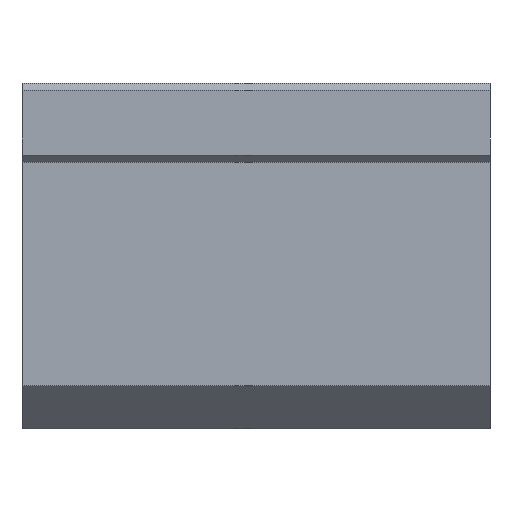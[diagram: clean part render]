
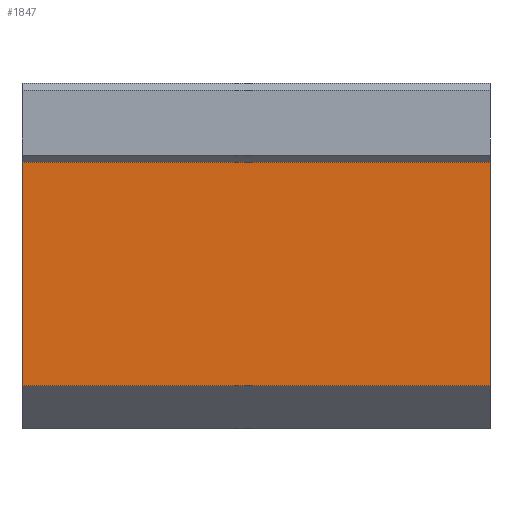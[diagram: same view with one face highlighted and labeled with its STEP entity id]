
A CAD part, front view. The second image highlights one B-rep face of the part: STEP entity #1847.
In plain terms, the highlighted planar face has unit normal (0, -1, 0).
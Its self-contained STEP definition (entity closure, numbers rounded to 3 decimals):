
#1618=CARTESIAN_POINT('',(0.0,-29.,-14.));
#1619=VERTEX_POINT('',#1618);
#1626=CARTESIAN_POINT('',(0.0,-29.,17.));
#1627=VERTEX_POINT('',#1626);
#1628=CARTESIAN_POINT('',(0.0,-29.,17.));
#1629=DIRECTION('',(0.0,0.0,-1.0));
#1630=VECTOR('',#1629,31.0);
#1631=LINE('',#1628,#1630);
#1632=EDGE_CURVE('',#1627,#1619,#1631,.T.);
#1799=CARTESIAN_POINT('',(65.0,-29.,17.));
#1800=VERTEX_POINT('',#1799);
#1801=CARTESIAN_POINT('',(0.0,-29.,17.));
#1802=DIRECTION('',(1.0,0.0,0.0));
#1803=VECTOR('',#1802,65.0);
#1804=LINE('',#1801,#1803);
#1805=EDGE_CURVE('',#1627,#1800,#1804,.T.);
#1824=CARTESIAN_POINT('',(0.0,-29.,-20.));
#1825=DIRECTION('',(0.0,-1.0,0.0));
#1826=DIRECTION('',(0.0,0.0,-1.0));
#1827=AXIS2_PLACEMENT_3D('',#1824,#1825,#1826);
#1828=PLANE('',#1827);
#1829=ORIENTED_EDGE('',*,*,#1805,.F.);
#1830=ORIENTED_EDGE('',*,*,#1632,.T.);
#1831=CARTESIAN_POINT('',(65.0,-29.,-14.));
#1832=VERTEX_POINT('',#1831);
#1833=CARTESIAN_POINT('',(65.0,-29.,-14.));
#1834=DIRECTION('',(-1.0,0.0,0.0));
#1835=VECTOR('',#1834,65.0);
#1836=LINE('',#1833,#1835);
#1837=EDGE_CURVE('',#1832,#1619,#1836,.T.);
#1838=ORIENTED_EDGE('',*,*,#1837,.F.);
#1839=CARTESIAN_POINT('',(65.0,-29.,-14.));
#1840=DIRECTION('',(0.0,0.0,1.0));
#1841=VECTOR('',#1840,31.0);
#1842=LINE('',#1839,#1841);
#1843=EDGE_CURVE('',#1832,#1800,#1842,.T.);
#1844=ORIENTED_EDGE('',*,*,#1843,.T.);
#1845=EDGE_LOOP('',(#1829,#1830,#1838,#1844));
#1846=FACE_OUTER_BOUND('',#1845,.T.);
#1847=ADVANCED_FACE('',(#1846),#1828,.T.);
